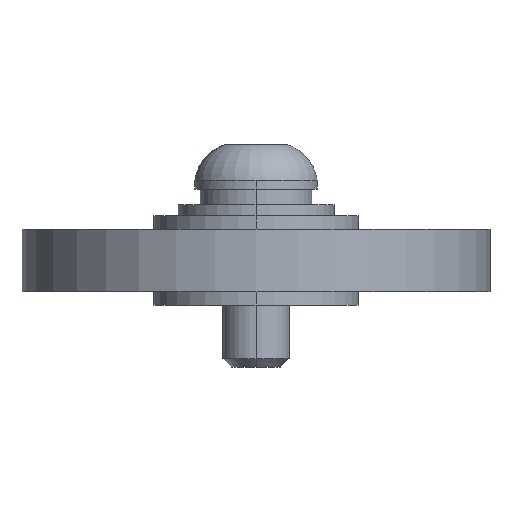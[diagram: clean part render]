
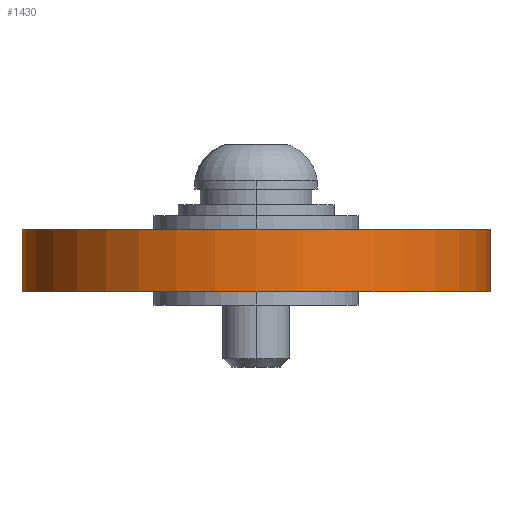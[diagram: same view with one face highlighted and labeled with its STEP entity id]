
A CAD part, left-side view. The second image highlights one B-rep face of the part: STEP entity #1430.
In plain terms, the highlighted cylindrical face has radius 10.5 mm (diameter 21 mm), a partial arc.
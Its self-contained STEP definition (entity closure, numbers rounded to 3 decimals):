
#148 = ORIENTED_EDGE ( 'NONE', *, *, #679, .T. ) ;
#276 = VERTEX_POINT ( 'NONE', #1610 ) ;
#277 = VERTEX_POINT ( 'NONE', #1609 ) ;
#279 = EDGE_CURVE ( 'NONE', #277, #280, #1608, .T. ) ;
#280 = VERTEX_POINT ( 'NONE', #1604 ) ;
#283 = VERTEX_POINT ( 'NONE', #1598 ) ;
#309 = ORIENTED_EDGE ( 'NONE', *, *, #334, .T. ) ;
#334 = EDGE_CURVE ( 'NONE', #276, #283, #1734, .T. ) ;
#517 = EDGE_LOOP ( 'NONE', ( #673, #148, #309, #783 ) ) ;
#673 = ORIENTED_EDGE ( 'NONE', *, *, #279, .F. ) ;
#679 = EDGE_CURVE ( 'NONE', #277, #276, #2808, .T. ) ;
#783 = ORIENTED_EDGE ( 'NONE', *, *, #921, .F. ) ;
#921 = EDGE_CURVE ( 'NONE', #280, #283, #3003, .T. ) ;
#1430 = ADVANCED_FACE ( 'NONE', ( #3030 ), #3013, .T. ) ;
#1598 = CARTESIAN_POINT ( 'NONE',  ( 30.432, 39.787, 32.5 ) ) ;
#1604 = CARTESIAN_POINT ( 'NONE',  ( 30.432, 60.787, 32.5 ) ) ;
#1605 = DIRECTION ( 'NONE',  ( 0., 0., 1. ) ) ;
#1606 = VECTOR ( 'NONE', #1605, 1000. ) ;
#1607 = CARTESIAN_POINT ( 'NONE',  ( 30.432, 60.787, 30.1 ) ) ;
#1608 = LINE ( 'NONE', #1607, #1606 ) ;
#1609 = CARTESIAN_POINT ( 'NONE',  ( 30.432, 60.787, 29.7 ) ) ;
#1610 = CARTESIAN_POINT ( 'NONE',  ( 30.432, 39.787, 29.7 ) ) ;
#1731 = DIRECTION ( 'NONE',  ( 0., 0., 1. ) ) ;
#1732 = VECTOR ( 'NONE', #1731, 1000. ) ;
#1733 = CARTESIAN_POINT ( 'NONE',  ( 30.432, 39.787, 30.1 ) ) ;
#1734 = LINE ( 'NONE', #1733, #1732 ) ;
#2742 = CARTESIAN_POINT ( 'NONE',  ( 30.432, 50.287, 29.7 ) ) ;
#2805 = DIRECTION ( 'NONE',  ( 0., -1., 0. ) ) ;
#2806 = DIRECTION ( 'NONE',  ( 0., 0., 1. ) ) ;
#2807 = AXIS2_PLACEMENT_3D ( 'NONE', #2742, #2806, #2805 ) ;
#2808 = CIRCLE ( 'NONE', #2807, 10.5 ) ;
#2999 = DIRECTION ( 'NONE',  ( 0., -1., 0. ) ) ;
#3000 = DIRECTION ( 'NONE',  ( 0., 0., 1. ) ) ;
#3001 = CARTESIAN_POINT ( 'NONE',  ( 30.432, 50.287, 32.5 ) ) ;
#3002 = AXIS2_PLACEMENT_3D ( 'NONE', #3001, #3000, #2999 ) ;
#3003 = CIRCLE ( 'NONE', #3002, 10.5 ) ;
#3010 = DIRECTION ( 'NONE',  ( 0., -1., 0. ) ) ;
#3011 = DIRECTION ( 'NONE',  ( 0., 0., 1. ) ) ;
#3012 = AXIS2_PLACEMENT_3D ( 'NONE', #3015, #3011, #3010 ) ;
#3013 = CYLINDRICAL_SURFACE ( 'NONE', #3012, 10.5 ) ;
#3015 = CARTESIAN_POINT ( 'NONE',  ( 30.432, 50.287, 30.1 ) ) ;
#3030 = FACE_OUTER_BOUND ( 'NONE', #517, .T. ) ;
